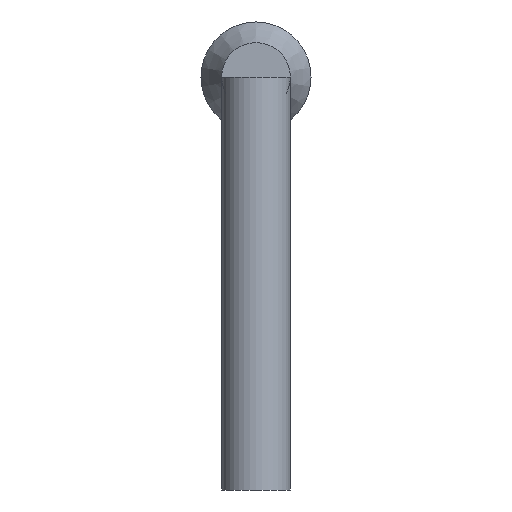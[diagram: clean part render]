
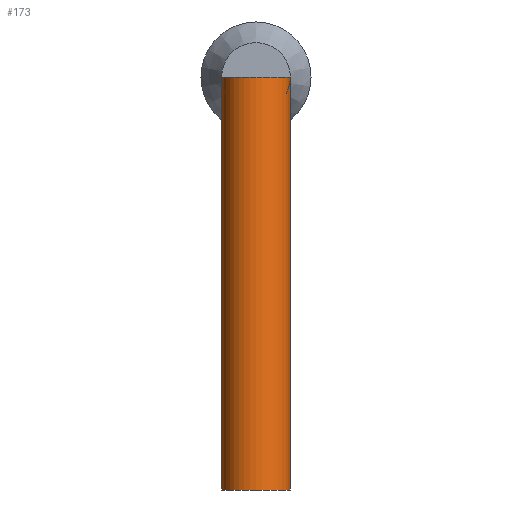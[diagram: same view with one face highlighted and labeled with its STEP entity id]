
A CAD part, left-side view. The second image highlights one B-rep face of the part: STEP entity #173.
In plain terms, the highlighted cylindrical face has radius 0.25 mm (diameter 0.5 mm), a full revolution.
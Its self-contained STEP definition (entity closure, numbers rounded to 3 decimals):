
#173 = ADVANCED_FACE('',(#174),#201,.T.);
#174 = FACE_BOUND('',#175,.T.);
#175 = EDGE_LOOP('',(#176,#185,#193,#200));
#176 = ORIENTED_EDGE('',*,*,#177,.F.);
#177 = EDGE_CURVE('',#178,#178,#180,.T.);
#178 = VERTEX_POINT('',#179);
#179 = CARTESIAN_POINT('',(-15.49,0.,-3.));
#180 = CIRCLE('',#181,0.25);
#181 = AXIS2_PLACEMENT_3D('',#182,#183,#184);
#182 = CARTESIAN_POINT('',(-15.24,0.,-3.));
#183 = DIRECTION('',(0.,0.,-1.));
#184 = DIRECTION('',(-1.,0.,-0.));
#185 = ORIENTED_EDGE('',*,*,#186,.F.);
#186 = EDGE_CURVE('',#187,#178,#189,.T.);
#187 = VERTEX_POINT('',#188);
#188 = CARTESIAN_POINT('',(-15.49,0.,0.));
#189 = LINE('',#190,#191);
#190 = CARTESIAN_POINT('',(-15.49,0.,0.));
#191 = VECTOR('',#192,1.);
#192 = DIRECTION('',(0.,0.,-1.));
#193 = ORIENTED_EDGE('',*,*,#194,.T.);
#194 = EDGE_CURVE('',#187,#187,#195,.T.);
#195 = CIRCLE('',#196,0.25);
#196 = AXIS2_PLACEMENT_3D('',#197,#198,#199);
#197 = CARTESIAN_POINT('',(-15.24,0.,0.));
#198 = DIRECTION('',(0.,0.,-1.));
#199 = DIRECTION('',(-1.,0.,-0.));
#200 = ORIENTED_EDGE('',*,*,#186,.T.);
#201 = CYLINDRICAL_SURFACE('',#202,0.25);
#202 = AXIS2_PLACEMENT_3D('',#203,#204,#205);
#203 = CARTESIAN_POINT('',(-15.24,0.,0.));
#204 = DIRECTION('',(0.,0.,-1.));
#205 = DIRECTION('',(-1.,0.,-0.));
